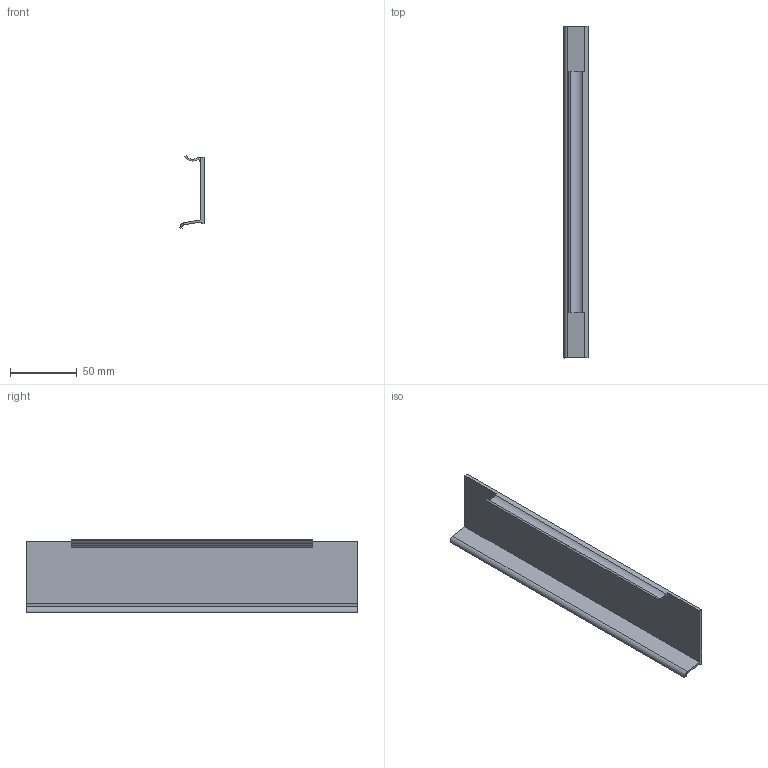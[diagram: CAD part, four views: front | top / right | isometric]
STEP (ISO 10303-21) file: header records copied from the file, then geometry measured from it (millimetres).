
FILE_DESCRIPTION (( 'STEP AP214' ), '1' );
FILE_NAME ('Sidecover_NL-270.step', '2010-09-21T06:52:12', ( 'grass' ), ( '' ), 'SwSTEP 2.0', 'SolidWorks 2010', '' );
FILE_SCHEMA (( 'AUTOMOTIVE_DESIGN' ));
Length unit declared in the file: millimetre
Products named in the file (1): Sidecover_NL-270
Bounding box: 18.14 x 249.5 x 54.9 mm (x, y, z)
Volume: 40288.1 mm3; surface area: 39415.7 mm2
Topology: 1 solids, 1 shells, 19 faces, 51 edges, 34 vertices
Faces by surface type: plane 14, cylinder 5
Entity records: 629 total; most frequent: CARTESIAN_POINT 105, ORIENTED_EDGE 102, DIRECTION 101, EDGE_CURVE 51, VECTOR 41, LINE 41, VERTEX_POINT 34, AXIS2_PLACEMENT_3D 30
